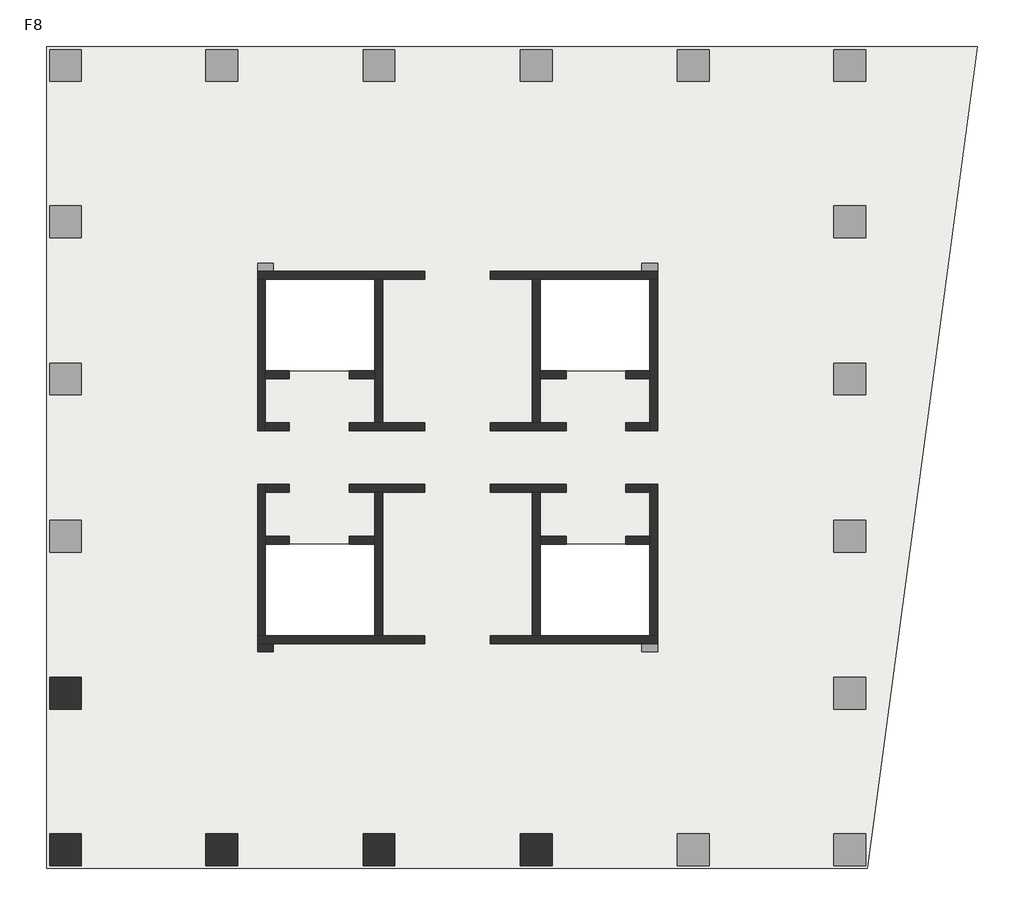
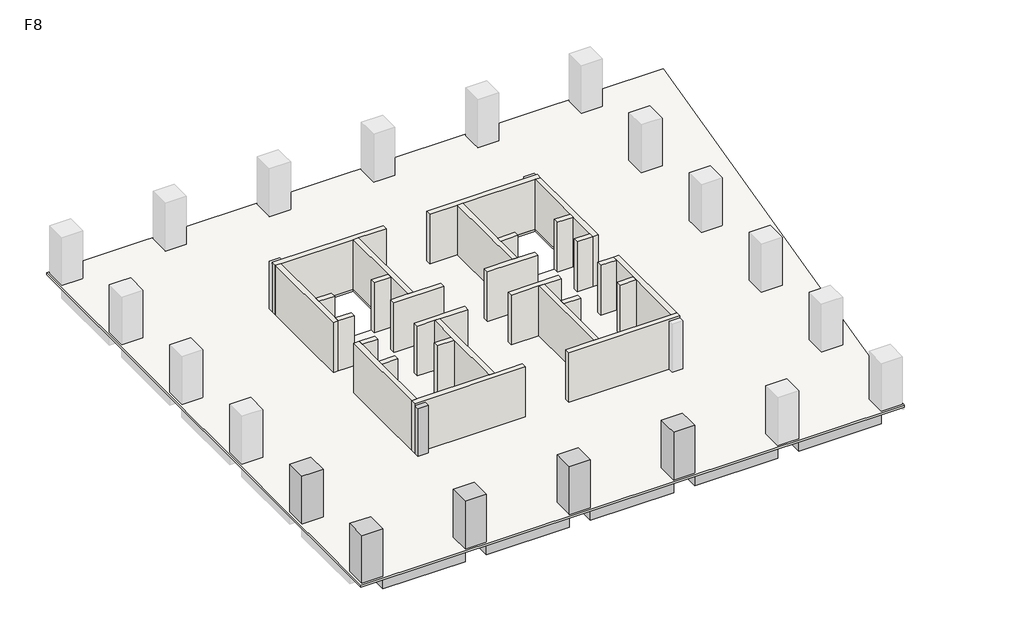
# One storey, part 1 of 2: 28 walls, 6 columns, 5 beams, 1 slab.
"""IFC4 building model written with IfcOpenShell, lengths in millimetres."""

from ifc_helpers import new_model, si_unit, frame, origin, place, context, project, spatial, polyline, outline, extrude, faceted_brep, element, save

model = new_model("IFC4")

# Units and contexts
model_context = context("Model", 3, world=origin())
ifc_project = project(units=[si_unit("LENGTHUNIT", "METRE", prefix="MILLI")], contexts=[model_context])

# Site, building, storey
site = spatial("IfcSite", under=ifc_project)
building = spatial("IfcBuilding", under=site)
storey = spatial("IfcBuildingStorey", under=building, Name="F8", Elevation=32000.0)

# Beams
placement = place(None, origin())
element("IfcBeam", 1, ObjectType="混凝土 - 矩形梁 : KL(5)-800x1000", at=placement, inside=storey, context=model_context, shape_type="SweptSolid", body=[
    extrude(outline(polyline([(-12472.6742169, -13948.9501342), (-12472.6742169, -13148.9501342), (-6222.6742169, -13148.9501342), (-6222.6742169, -13948.9501342), (-12472.6742169, -13948.9501342)])), frame((0.0, 0.0, 31000.0), z_axis=(0.0, 0.0, 1.0), x_axis=(1.0, 0.0, 0.0)), (0.0, 0.0, 1.0), 840.0),
    extrude(outline(polyline([(25327.3257831, -13148.9501342), (25327.3257831, -13948.9501342), (19077.3257831, -13948.9501342), (19077.3257831, -13148.9501342), (25327.3257831, -13148.9501342)])), frame((0.0, 0.0, 31000.0), z_axis=(0.0, 0.0, 1.0), x_axis=(1.0, 0.0, 0.0)), (0.0, 0.0, 1.0), 840.0),
    extrude(outline(polyline([(-4622.6742169, -13948.9501342), (-4622.6742169, -13148.9501342), (1677.3257831, -13148.9501342), (1677.3257831, -13948.9501342), (-4622.6742169, -13948.9501342)])), frame((0.0, 0.0, 31000.0), z_axis=(0.0, 0.0, 1.0), x_axis=(1.0, 0.0, 0.0)), (0.0, 0.0, 1.0), 840.0),
    extrude(outline(polyline([(3277.3257831, -13948.9501342), (3277.3257831, -13148.9501342), (9577.3257831, -13148.9501342), (9577.3257831, -13948.9501342), (3277.3257831, -13948.9501342)])), frame((0.0, 0.0, 31000.0), z_axis=(0.0, 0.0, 1.0), x_axis=(1.0, 0.0, 0.0)), (0.0, 0.0, 1.0), 840.0),
    extrude(outline(polyline([(11177.3257831, -13948.9501342), (11177.3257831, -13148.9501342), (17477.3257831, -13148.9501342), (17477.3257831, -13948.9501342), (11177.3257831, -13948.9501342)])), frame((0.0, 0.0, 31000.0), z_axis=(0.0, 0.0, 1.0), x_axis=(1.0, 0.0, 0.0)), (0.0, 0.0, 1.0), 840.0),
])
element("IfcBeam", 2, ObjectType="混凝土 - 矩形梁 : L1-800x500", at=placement, inside=storey, context=model_context, shape_type="Brep", body=[
    faceted_brep([(-12472.6742169, -5512.1353397, 31500.0), (-3746.9473979, -3341.556529, 31500.0), (-3173.6696907, -3198.9501342, 31500.0), (-3173.6696907, -3198.9501342, 31840.0), (-3746.9473979, -3341.556529, 31840.0), (-12472.6742169, -5512.1353397, 31840.0), (-3622.6742169, -3198.9501342, 31500.0), (-12472.6742169, -4687.7549784, 31500.0), (-3622.6742169, -2486.2624411, 31500.0), (-3622.6742169, -2798.9501342, 31500.0), (-12472.6742169, -4687.7549784, 31840.0), (-3622.6742169, -2486.2624411, 31840.0), (-3622.6742169, -3198.9501342, 31840.0)], [[[0, 1, 2, 3, 4, 5]], [[6, 2, 1, 0, 7, 8, 9]], [[8, 7, 10, 11]], [[2, 6, 12, 3]], [[9, 8, 11, 12, 6]], [[7, 0, 5, 10]], [[5, 4, 3, 12, 11, 10]]]),
])
element("IfcBeam", 3, ObjectType="混凝土 - 矩形梁 : L1-800x500", at=placement, inside=storey, context=model_context, shape_type="SweptSolid", body=[
    extrude(outline(polyline([(-3746.9473979, -3341.556529), (-3173.6696907, -3198.9501342), (-2898.7618154, -3198.9501342), (-4843.6893517, -12348.9501342), (-5661.5624638, -12348.9501342), (-3746.9473979, -3341.556529)])), frame((0.0, 0.0, 31500.0), z_axis=(0.0, 0.0, 1.0), x_axis=(1.0, 0.0, 0.0)), (0.0, 0.0, 1.0), 340.0),
])
element("IfcBeam", 4, ObjectType="混凝土 - 矩形梁 : L1-800x500", at=placement, inside=storey, context=model_context, shape_type="SweptSolid", body=[
    extrude(outline(polyline([(2877.3257831, -12348.9501342), (2077.3257831, -12348.9501342), (2077.3257831, -2798.9501342), (2877.3257831, -2798.9501342), (2877.3257831, -12348.9501342)])), frame((0.0, 0.0, 31500.0), z_axis=(0.0, 0.0, 1.0), x_axis=(1.0, 0.0, 0.0)), (0.0, 0.0, 1.0), 340.0),
])
element("IfcBeam", 5, ObjectType="混凝土 - 矩形梁 : L1-800x500", at=placement, inside=storey, context=model_context, shape_type="SweptSolid", body=[
    extrude(outline(polyline([(10777.3257831, -12348.9501342), (9977.3257831, -12348.9501342), (9977.3257831, -2798.9501342), (10777.3257831, -2798.9501342), (10777.3257831, -12348.9501342)])), frame((0.0, 0.0, 31500.0), z_axis=(0.0, 0.0, 1.0), x_axis=(1.0, 0.0, 0.0)), (0.0, 0.0, 1.0), 340.0),
])

# Columns
element("IfcColumn", 6, ObjectType="混凝土 - 矩形 - 柱 : Z1-1600x1600", at=placement, inside=storey, context=model_context, shape_type="Brep", body=[
    faceted_brep([(-12472.6742169, -4498.9501342, 32000.0), (-12472.6742169, -6098.9501342, 32000.0), (-14072.6742169, -6098.9501342, 32000.0), (-14072.6742169, -4498.9501342, 32000.0), (-12472.6742169, -4498.9501342, 35840.0), (-12472.6742169, -6098.9501342, 35840.0), (-13272.6742169, -6098.9501342, 35840.0), (-14072.6742169, -6098.9501342, 35840.0), (-14072.6742169, -6098.9501342, 35000.0), (-14072.6742169, -4498.9501342, 35840.0), (-14072.6742169, -4498.9501342, 35000.0), (-13272.6742169, -4498.9501342, 35840.0)], [[[0, 1, 2, 3]], [[1, 0, 4, 5]], [[2, 1, 5, 6, 7, 8]], [[3, 2, 8, 7, 9, 10]], [[0, 3, 10, 9, 11, 4]], [[5, 4, 11, 9, 7, 6]]]),
])
element("IfcColumn", 7, ObjectType="混凝土 - 矩形 - 柱 : Z1-1600x1600", at=placement, inside=storey, context=model_context, shape_type="SweptSolid", body=[
    extrude(outline(polyline([(-12472.6742169, -12348.9501342), (-12472.6742169, -13948.9501342), (-14072.6742169, -13948.9501342), (-14072.6742169, -12348.9501342), (-12472.6742169, -12348.9501342)])), frame((0.0, 0.0, 32000.0), z_axis=(0.0, 0.0, 1.0), x_axis=(1.0, 0.0, 0.0)), (0.0, 0.0, 1.0), 3840.0),
])
element("IfcColumn", 8, ObjectType="混凝土 - 矩形 - 柱 : Z1-1600x1600", at=placement, inside=storey, context=model_context, shape_type="Brep", body=[
    faceted_brep([(-4622.6742169, -12348.9501342, 32000.0), (-4622.6742169, -13948.9501342, 32000.0), (-6222.6742169, -13948.9501342, 32000.0), (-6222.6742169, -12348.9501342, 32000.0), (-4622.6742169, -12348.9501342, 35840.0), (-4622.6742169, -13148.9501342, 35840.0), (-4622.6742169, -13948.9501342, 35840.0), (-4622.6742169, -13948.9501342, 35000.0), (-6222.6742169, -13948.9501342, 35840.0), (-6222.6742169, -13948.9501342, 35000.0), (-6222.6742169, -13148.9501342, 35840.0), (-6222.6742169, -12348.9501342, 35840.0)], [[[0, 1, 2, 3]], [[1, 0, 4, 5, 6, 7]], [[2, 1, 7, 6, 8, 9]], [[3, 2, 9, 8, 10, 11]], [[0, 3, 11, 4]], [[6, 5, 4, 11, 10, 8]]]),
])
element("IfcColumn", 9, ObjectType="混凝土 - 矩形 - 柱 : Z1-1600x1600", at=placement, inside=storey, context=model_context, shape_type="Brep", body=[
    faceted_brep([(3277.3257831, -12348.9501342, 32000.0), (3277.3257831, -13948.9501342, 32000.0), (1677.3257831, -13948.9501342, 32000.0), (1677.3257831, -12348.9501342, 32000.0), (3277.3257831, -12348.9501342, 35840.0), (3277.3257831, -13148.9501342, 35840.0), (3277.3257831, -13948.9501342, 35840.0), (3277.3257831, -13948.9501342, 35000.0), (1677.3257831, -13948.9501342, 35840.0), (1677.3257831, -13948.9501342, 35000.0), (1677.3257831, -13148.9501342, 35840.0), (1677.3257831, -12348.9501342, 35840.0)], [[[0, 1, 2, 3]], [[1, 0, 4, 5, 6, 7]], [[2, 1, 7, 6, 8, 9]], [[3, 2, 9, 8, 10, 11]], [[0, 3, 11, 4]], [[6, 5, 4, 11, 10, 8]]]),
])
element("IfcColumn", 10, ObjectType="混凝土 - 矩形 - 柱 : Z1-1600x1600", at=placement, inside=storey, context=model_context, shape_type="Brep", body=[
    faceted_brep([(11177.3257831, -12348.9501342, 32000.0), (11177.3257831, -13948.9501342, 32000.0), (9577.3257831, -13948.9501342, 32000.0), (9577.3257831, -12348.9501342, 32000.0), (11177.3257831, -12348.9501342, 35840.0), (11177.3257831, -13148.9501342, 35840.0), (11177.3257831, -13948.9501342, 35840.0), (11177.3257831, -13948.9501342, 35000.0), (9577.3257831, -13948.9501342, 35840.0), (9577.3257831, -13948.9501342, 35000.0), (9577.3257831, -13148.9501342, 35840.0), (9577.3257831, -12348.9501342, 35840.0)], [[[0, 1, 2, 3]], [[1, 0, 4, 5, 6, 7]], [[2, 1, 7, 6, 8, 9]], [[3, 2, 9, 8, 10, 11]], [[0, 3, 11, 4]], [[6, 5, 4, 11, 10, 8]]]),
])
element("IfcColumn", 11, ObjectType="混凝土 - 矩形 - 柱 : Z2-800x800", at=placement, inside=storey, context=model_context, shape_type="SweptSolid", body=[
    extrude(outline(polyline([(-2822.6742169, -3198.9501342), (-3622.6742169, -3198.9501342), (-3622.6742169, -2798.9501342), (-2822.6742169, -2798.9501342), (-2822.6742169, -3198.9501342)])), frame((0.0, 0.0, 32000.0), z_axis=(0.0, 0.0, 1.0), x_axis=(1.0, 0.0, 0.0)), (0.0, 0.0, 1.0), 3840.0),
])

# Slab
element("IfcSlab", 12, ObjectType="LB-160", at=placement, inside=storey, context=model_context, shape_type="Brep", body=[
    faceted_brep([(32549.4477343, 27201.0498658, 31840.0), (32422.0087099, 26251.0498658, 31840.0), (27029.3257831, -13948.9501342, 31840.0), (27011.0393465, -14085.2672073, 31840.0), (-14222.6742169, -14085.2672073, 31840.0), (-14222.6742169, 27201.0498658, 31840.0), (2277.3257831, 15501.0498658, 31840.0), (-3222.6742169, 15501.0498658, 31840.0), (-3222.6742169, 10901.0498658, 31840.0), (2277.3257831, 10901.0498658, 31840.0), (2277.3257831, 2201.0498658, 31840.0), (-3222.6742169, 2201.0498658, 31840.0), (-3222.6742169, -2398.9501342, 31840.0), (2277.3257831, -2398.9501342, 31840.0), (16077.3257831, 2201.0498658, 31840.0), (10577.3257831, 2201.0498658, 31840.0), (10577.3257831, -2398.9501342, 31840.0), (16077.3257831, -2398.9501342, 31840.0), (16077.3257831, 15501.0498658, 31840.0), (10577.3257831, 15501.0498658, 31840.0), (10577.3257831, 10901.0498658, 31840.0), (16077.3257831, 10901.0498658, 31840.0), (32549.4477343, 27201.0498658, 32000.0), (-14222.6742169, 27201.0498658, 32000.0), (-14222.6742169, -14085.2672073, 32000.0), (27011.0393465, -14085.2672073, 32000.0), (2277.3257831, 15501.0498658, 32000.0), (2277.3257831, 10901.0498658, 32000.0), (-3222.6742169, 10901.0498658, 32000.0), (-3222.6742169, 15501.0498658, 32000.0), (2277.3257831, 2201.0498658, 32000.0), (2277.3257831, -2398.9501342, 32000.0), (-3222.6742169, -2398.9501342, 32000.0), (-3222.6742169, 2201.0498658, 32000.0), (16077.3257831, 2201.0498658, 32000.0), (16077.3257831, -2398.9501342, 32000.0), (10577.3257831, -2398.9501342, 32000.0), (10577.3257831, 2201.0498658, 32000.0), (16077.3257831, 15501.0498658, 32000.0), (16077.3257831, 10901.0498658, 32000.0), (10577.3257831, 10901.0498658, 32000.0), (10577.3257831, 15501.0498658, 32000.0)], [[[0, 1, 2, 3, 4, 5], [6, 7, 8, 9], [10, 11, 12, 13], [14, 15, 16, 17], [18, 19, 20, 21]], [[22, 23, 24, 25], [26, 27, 28, 29], [30, 31, 32, 33], [34, 35, 36, 37], [38, 39, 40, 41]], [[3, 2, 1, 0, 22, 25]], [[4, 3, 25, 24]], [[5, 4, 24, 23]], [[0, 5, 23, 22]], [[7, 6, 26, 29]], [[8, 7, 29, 28]], [[9, 8, 28, 27]], [[6, 9, 27, 26]], [[11, 10, 30, 33]], [[12, 11, 33, 32]], [[13, 12, 32, 31]], [[10, 13, 31, 30]], [[15, 14, 34, 37]], [[16, 15, 37, 36]], [[17, 16, 36, 35]], [[14, 17, 35, 34]], [[19, 18, 38, 41]], [[20, 19, 41, 40]], [[21, 20, 40, 39]], [[18, 21, 39, 38]]]),
])

# Walls
element("IfcWall", 13, ObjectType="剪力墙-400", at=placement, inside=storey, context=model_context, shape_type="Brep", body=[
    faceted_brep([(-3622.6742169, 15501.0498658, 32000.0), (-3222.6742169, 15501.0498658, 32000.0), (2277.3257831, 15501.0498658, 32000.0), (2677.3257831, 15501.0498658, 32000.0), (4777.3257831, 15501.0498658, 32000.0), (4777.3257831, 15501.0498658, 36000.0), (2677.3257831, 15501.0498658, 36000.0), (2277.3257831, 15501.0498658, 36000.0), (-3222.6742169, 15501.0498658, 36000.0), (-3622.6742169, 15501.0498658, 36000.0), (-3622.6742169, 15901.0498658, 32000.0), (-3622.6742169, 15901.0498658, 35840.0), (-3622.6742169, 15901.0498658, 36000.0), (4777.3257831, 15901.0498658, 36000.0), (4777.3257831, 15901.0498658, 32000.0), (-2822.6742169, 15901.0498658, 32000.0)], [[[0, 1, 2, 3, 4, 5, 6, 7, 8, 9]], [[10, 11, 12, 13, 14, 15]], [[4, 3, 2, 1, 0, 10, 15, 14]], [[5, 4, 14, 13]], [[9, 8, 7, 6, 5, 13, 12]], [[0, 9, 12, 11, 10]]]),
])
element("IfcWall", 14, ObjectType="剪力墙-400", at=placement, inside=storey, context=model_context, shape_type="Brep", body=[
    faceted_brep([(2277.3257831, 15501.0498658, 32000.0), (2277.3257831, 10901.0498658, 32000.0), (2277.3257831, 10501.0498658, 32000.0), (2277.3257831, 8301.0498658, 32000.0), (2277.3257831, 8301.0498658, 36000.0), (2277.3257831, 10501.0498658, 36000.0), (2277.3257831, 10901.0498658, 36000.0), (2277.3257831, 15501.0498658, 36000.0), (2677.3257831, 15501.0498658, 32000.0), (2677.3257831, 15501.0498658, 36000.0), (2677.3257831, 8301.0498658, 36000.0), (2677.3257831, 8301.0498658, 32000.0)], [[[0, 1, 2, 3, 4, 5, 6, 7]], [[8, 9, 10, 11]], [[3, 2, 1, 0, 8, 11]], [[7, 6, 5, 4, 10, 9]], [[0, 7, 9, 8]], [[4, 3, 11, 10]]]),
])
element("IfcWall", 15, ObjectType="剪力墙-400", at=placement, inside=storey, context=model_context, shape_type="Brep", body=[
    faceted_brep([(-3622.6742169, 15501.0498658, 32000.0), (-3622.6742169, 7901.0498658, 32000.0), (-3622.6742169, 7901.0498658, 36000.0), (-3622.6742169, 15501.0498658, 36000.0), (-3222.6742169, 15501.0498658, 32000.0), (-3222.6742169, 15501.0498658, 36000.0), (-3222.6742169, 10901.0498658, 36000.0), (-3222.6742169, 10501.0498658, 36000.0), (-3222.6742169, 8301.0498658, 36000.0), (-3222.6742169, 7901.0498658, 36000.0), (-3222.6742169, 7901.0498658, 32000.0), (-3222.6742169, 8301.0498658, 32000.0), (-3222.6742169, 10501.0498658, 32000.0), (-3222.6742169, 10901.0498658, 32000.0)], [[[0, 1, 2, 3]], [[4, 5, 6, 7, 8, 9, 10, 11, 12, 13]], [[1, 0, 4, 13, 12, 11, 10]], [[3, 2, 9, 8, 7, 6, 5]], [[0, 3, 5, 4]], [[2, 1, 10, 9]]]),
])
element("IfcWall", 16, ObjectType="剪力墙-400", at=placement, inside=storey, context=model_context, shape_type="SweptSolid", body=[
    extrude(outline(polyline([(-2022.6742169, 7901.0498658), (-3222.6742169, 7901.0498658), (-3222.6742169, 8301.0498658), (-2022.6742169, 8301.0498658), (-2022.6742169, 7901.0498658)])), frame((0.0, 0.0, 32000.0), z_axis=(0.0, 0.0, 1.0), x_axis=(1.0, 0.0, 0.0)), (0.0, 0.0, 1.0), 4000.0),
])
element("IfcWall", 17, ObjectType="剪力墙-400", at=placement, inside=storey, context=model_context, shape_type="Brep", body=[
    faceted_brep([(977.3257831, 7901.0498658, 32000.0), (4777.3257831, 7901.0498658, 32000.0), (4777.3257831, 7901.0498658, 36000.0), (977.3257831, 7901.0498658, 36000.0), (977.3257831, 8301.0498658, 32000.0), (977.3257831, 8301.0498658, 36000.0), (2277.3257831, 8301.0498658, 36000.0), (2677.3257831, 8301.0498658, 36000.0), (4777.3257831, 8301.0498658, 36000.0), (4777.3257831, 8301.0498658, 32000.0), (2677.3257831, 8301.0498658, 32000.0), (2277.3257831, 8301.0498658, 32000.0)], [[[0, 1, 2, 3]], [[4, 5, 6, 7, 8, 9, 10, 11]], [[1, 0, 4, 11, 10, 9]], [[2, 1, 9, 8]], [[3, 2, 8, 7, 6, 5]], [[0, 3, 5, 4]]]),
])
element("IfcWall", 18, ObjectType="剪力墙-400", at=placement, inside=storey, context=model_context, shape_type="SweptSolid", body=[
    extrude(outline(polyline([(-2022.6742169, 10501.0498658), (-3222.6742169, 10501.0498658), (-3222.6742169, 10901.0498658), (-2022.6742169, 10901.0498658), (-2022.6742169, 10501.0498658)])), frame((0.0, 0.0, 32000.0), z_axis=(0.0, 0.0, 1.0), x_axis=(1.0, 0.0, 0.0)), (0.0, 0.0, 1.0), 4000.0),
])
element("IfcWall", 19, ObjectType="剪力墙-400", at=placement, inside=storey, context=model_context, shape_type="SweptSolid", body=[
    extrude(outline(polyline([(2277.3257831, 10501.0498658), (977.3257831, 10501.0498658), (977.3257831, 10901.0498658), (2277.3257831, 10901.0498658), (2277.3257831, 10501.0498658)])), frame((0.0, 0.0, 32000.0), z_axis=(0.0, 0.0, 1.0), x_axis=(1.0, 0.0, 0.0)), (0.0, 0.0, 1.0), 4000.0),
])
element("IfcWall", 20, ObjectType="剪力墙-400", at=placement, inside=storey, context=model_context, shape_type="Brep", body=[
    faceted_brep([(16477.3257831, 15901.0498658, 32000.0), (15677.3257831, 15901.0498658, 32000.0), (8077.3257831, 15901.0498658, 32000.0), (8077.3257831, 15901.0498658, 36000.0), (16477.3257831, 15901.0498658, 36000.0), (16477.3257831, 15901.0498658, 35840.0), (16477.3257831, 15501.0498658, 32000.0), (16477.3257831, 15501.0498658, 36000.0), (16077.3257831, 15501.0498658, 36000.0), (10577.3257831, 15501.0498658, 36000.0), (10177.3257831, 15501.0498658, 36000.0), (8077.3257831, 15501.0498658, 36000.0), (8077.3257831, 15501.0498658, 32000.0), (10177.3257831, 15501.0498658, 32000.0), (10577.3257831, 15501.0498658, 32000.0), (16077.3257831, 15501.0498658, 32000.0)], [[[0, 1, 2, 3, 4, 5]], [[6, 7, 8, 9, 10, 11, 12, 13, 14, 15]], [[2, 1, 0, 6, 15, 14, 13, 12]], [[3, 2, 12, 11]], [[4, 3, 11, 10, 9, 8, 7]], [[0, 5, 4, 7, 6]]]),
])
element("IfcWall", 21, ObjectType="剪力墙-400", at=placement, inside=storey, context=model_context, shape_type="Brep", body=[
    faceted_brep([(10177.3257831, 15501.0498658, 32000.0), (10177.3257831, 8301.0498658, 32000.0), (10177.3257831, 8301.0498658, 36000.0), (10177.3257831, 15501.0498658, 36000.0), (10577.3257831, 15501.0498658, 32000.0), (10577.3257831, 15501.0498658, 36000.0), (10577.3257831, 10901.0498658, 36000.0), (10577.3257831, 10501.0498658, 36000.0), (10577.3257831, 8301.0498658, 36000.0), (10577.3257831, 8301.0498658, 32000.0), (10577.3257831, 10501.0498658, 32000.0), (10577.3257831, 10901.0498658, 32000.0)], [[[0, 1, 2, 3]], [[4, 5, 6, 7, 8, 9, 10, 11]], [[1, 0, 4, 11, 10, 9]], [[3, 2, 8, 7, 6, 5]], [[0, 3, 5, 4]], [[2, 1, 9, 8]]]),
])
element("IfcWall", 22, ObjectType="剪力墙-400", at=placement, inside=storey, context=model_context, shape_type="Brep", body=[
    faceted_brep([(16077.3257831, 15501.0498658, 32000.0), (16077.3257831, 10901.0498658, 32000.0), (16077.3257831, 10501.0498658, 32000.0), (16077.3257831, 8301.0498658, 32000.0), (16077.3257831, 7901.0498658, 32000.0), (16077.3257831, 7901.0498658, 36000.0), (16077.3257831, 8301.0498658, 36000.0), (16077.3257831, 10501.0498658, 36000.0), (16077.3257831, 10901.0498658, 36000.0), (16077.3257831, 15501.0498658, 36000.0), (16477.3257831, 15501.0498658, 32000.0), (16477.3257831, 15501.0498658, 36000.0), (16477.3257831, 7901.0498658, 36000.0), (16477.3257831, 7901.0498658, 32000.0)], [[[0, 1, 2, 3, 4, 5, 6, 7, 8, 9]], [[10, 11, 12, 13]], [[4, 3, 2, 1, 0, 10, 13]], [[9, 8, 7, 6, 5, 12, 11]], [[0, 9, 11, 10]], [[5, 4, 13, 12]]]),
])
element("IfcWall", 23, ObjectType="剪力墙-400", at=placement, inside=storey, context=model_context, shape_type="SweptSolid", body=[
    extrude(outline(polyline([(14877.3257831, 8301.0498658), (16077.3257831, 8301.0498658), (16077.3257831, 7901.0498658), (14877.3257831, 7901.0498658), (14877.3257831, 8301.0498658)])), frame((0.0, 0.0, 32000.0), z_axis=(0.0, 0.0, 1.0), x_axis=(1.0, 0.0, 0.0)), (0.0, 0.0, 1.0), 4000.0),
])
element("IfcWall", 24, ObjectType="剪力墙-400", at=placement, inside=storey, context=model_context, shape_type="Brep", body=[
    faceted_brep([(11877.3257831, 8301.0498658, 32000.0), (10577.3257831, 8301.0498658, 32000.0), (10177.3257831, 8301.0498658, 32000.0), (8077.3257831, 8301.0498658, 32000.0), (8077.3257831, 8301.0498658, 36000.0), (10177.3257831, 8301.0498658, 36000.0), (10577.3257831, 8301.0498658, 36000.0), (11877.3257831, 8301.0498658, 36000.0), (11877.3257831, 7901.0498658, 32000.0), (11877.3257831, 7901.0498658, 36000.0), (8077.3257831, 7901.0498658, 36000.0), (8077.3257831, 7901.0498658, 32000.0)], [[[0, 1, 2, 3, 4, 5, 6, 7]], [[8, 9, 10, 11]], [[3, 2, 1, 0, 8, 11]], [[4, 3, 11, 10]], [[7, 6, 5, 4, 10, 9]], [[0, 7, 9, 8]]]),
])
element("IfcWall", 25, ObjectType="剪力墙-400", at=placement, inside=storey, context=model_context, shape_type="SweptSolid", body=[
    extrude(outline(polyline([(14877.3257831, 10901.0498658), (16077.3257831, 10901.0498658), (16077.3257831, 10501.0498658), (14877.3257831, 10501.0498658), (14877.3257831, 10901.0498658)])), frame((0.0, 0.0, 32000.0), z_axis=(0.0, 0.0, 1.0), x_axis=(1.0, 0.0, 0.0)), (0.0, 0.0, 1.0), 4000.0),
])
element("IfcWall", 26, ObjectType="剪力墙-400", at=placement, inside=storey, context=model_context, shape_type="SweptSolid", body=[
    extrude(outline(polyline([(10577.3257831, 10901.0498658), (11877.3257831, 10901.0498658), (11877.3257831, 10501.0498658), (10577.3257831, 10501.0498658), (10577.3257831, 10901.0498658)])), frame((0.0, 0.0, 32000.0), z_axis=(0.0, 0.0, 1.0), x_axis=(1.0, 0.0, 0.0)), (0.0, 0.0, 1.0), 4000.0),
])
element("IfcWall", 27, ObjectType="剪力墙-400", at=placement, inside=storey, context=model_context, shape_type="Brep", body=[
    faceted_brep([(-3622.6742169, -2798.9501342, 32000.0), (-2822.6742169, -2798.9501342, 32000.0), (4777.3257831, -2798.9501342, 32000.0), (4777.3257831, -2798.9501342, 36000.0), (-3622.6742169, -2798.9501342, 36000.0), (-3622.6742169, -2798.9501342, 35840.0), (-3622.6742169, -2398.9501342, 32000.0), (-3622.6742169, -2398.9501342, 36000.0), (-3222.6742169, -2398.9501342, 36000.0), (2277.3257831, -2398.9501342, 36000.0), (2677.3257831, -2398.9501342, 36000.0), (4777.3257831, -2398.9501342, 36000.0), (4777.3257831, -2398.9501342, 32000.0), (2677.3257831, -2398.9501342, 32000.0), (2277.3257831, -2398.9501342, 32000.0), (-3222.6742169, -2398.9501342, 32000.0)], [[[0, 1, 2, 3, 4, 5]], [[6, 7, 8, 9, 10, 11, 12, 13, 14, 15]], [[2, 1, 0, 6, 15, 14, 13, 12]], [[3, 2, 12, 11]], [[4, 3, 11, 10, 9, 8, 7]], [[0, 5, 4, 7, 6]]]),
])
element("IfcWall", 28, ObjectType="剪力墙-400", at=placement, inside=storey, context=model_context, shape_type="Brep", body=[
    faceted_brep([(2677.3257831, -2398.9501342, 32000.0), (2677.3257831, 4801.0498658, 32000.0), (2677.3257831, 4801.0498658, 36000.0), (2677.3257831, -2398.9501342, 36000.0), (2277.3257831, -2398.9501342, 32000.0), (2277.3257831, -2398.9501342, 36000.0), (2277.3257831, 2201.0498658, 36000.0), (2277.3257831, 2601.0498658, 36000.0), (2277.3257831, 4801.0498658, 36000.0), (2277.3257831, 4801.0498658, 32000.0), (2277.3257831, 2601.0498658, 32000.0), (2277.3257831, 2201.0498658, 32000.0)], [[[0, 1, 2, 3]], [[4, 5, 6, 7, 8, 9, 10, 11]], [[1, 0, 4, 11, 10, 9]], [[3, 2, 8, 7, 6, 5]], [[0, 3, 5, 4]], [[2, 1, 9, 8]]]),
])
element("IfcWall", 29, ObjectType="剪力墙-400", at=placement, inside=storey, context=model_context, shape_type="Brep", body=[
    faceted_brep([(-3222.6742169, -2398.9501342, 32000.0), (-3222.6742169, 2201.0498658, 32000.0), (-3222.6742169, 2601.0498658, 32000.0), (-3222.6742169, 4801.0498658, 32000.0), (-3222.6742169, 5201.0498658, 32000.0), (-3222.6742169, 5201.0498658, 36000.0), (-3222.6742169, 4801.0498658, 36000.0), (-3222.6742169, 2601.0498658, 36000.0), (-3222.6742169, 2201.0498658, 36000.0), (-3222.6742169, -2398.9501342, 36000.0), (-3622.6742169, -2398.9501342, 32000.0), (-3622.6742169, -2398.9501342, 36000.0), (-3622.6742169, 5201.0498658, 36000.0), (-3622.6742169, 5201.0498658, 32000.0)], [[[0, 1, 2, 3, 4, 5, 6, 7, 8, 9]], [[10, 11, 12, 13]], [[4, 3, 2, 1, 0, 10, 13]], [[9, 8, 7, 6, 5, 12, 11]], [[0, 9, 11, 10]], [[5, 4, 13, 12]]]),
])
element("IfcWall", 30, ObjectType="剪力墙-400", at=placement, inside=storey, context=model_context, shape_type="SweptSolid", body=[
    extrude(outline(polyline([(-2022.6742169, 4801.0498658), (-3222.6742169, 4801.0498658), (-3222.6742169, 5201.0498658), (-2022.6742169, 5201.0498658), (-2022.6742169, 4801.0498658)])), frame((0.0, 0.0, 32000.0), z_axis=(0.0, 0.0, 1.0), x_axis=(1.0, 0.0, 0.0)), (0.0, 0.0, 1.0), 4000.0),
])
element("IfcWall", 31, ObjectType="剪力墙-400", at=placement, inside=storey, context=model_context, shape_type="Brep", body=[
    faceted_brep([(977.3257831, 4801.0498658, 32000.0), (2277.3257831, 4801.0498658, 32000.0), (2677.3257831, 4801.0498658, 32000.0), (4777.3257831, 4801.0498658, 32000.0), (4777.3257831, 4801.0498658, 36000.0), (2677.3257831, 4801.0498658, 36000.0), (2277.3257831, 4801.0498658, 36000.0), (977.3257831, 4801.0498658, 36000.0), (977.3257831, 5201.0498658, 32000.0), (977.3257831, 5201.0498658, 36000.0), (4777.3257831, 5201.0498658, 36000.0), (4777.3257831, 5201.0498658, 32000.0)], [[[0, 1, 2, 3, 4, 5, 6, 7]], [[8, 9, 10, 11]], [[3, 2, 1, 0, 8, 11]], [[4, 3, 11, 10]], [[7, 6, 5, 4, 10, 9]], [[0, 7, 9, 8]]]),
])
element("IfcWall", 32, ObjectType="剪力墙-400", at=placement, inside=storey, context=model_context, shape_type="SweptSolid", body=[
    extrude(outline(polyline([(-2022.6742169, 2201.0498658), (-3222.6742169, 2201.0498658), (-3222.6742169, 2601.0498658), (-2022.6742169, 2601.0498658), (-2022.6742169, 2201.0498658)])), frame((0.0, 0.0, 32000.0), z_axis=(0.0, 0.0, 1.0), x_axis=(1.0, 0.0, 0.0)), (0.0, 0.0, 1.0), 4000.0),
])
element("IfcWall", 33, ObjectType="剪力墙-400", at=placement, inside=storey, context=model_context, shape_type="SweptSolid", body=[
    extrude(outline(polyline([(2277.3257831, 2201.0498658), (977.3257831, 2201.0498658), (977.3257831, 2601.0498658), (2277.3257831, 2601.0498658), (2277.3257831, 2201.0498658)])), frame((0.0, 0.0, 32000.0), z_axis=(0.0, 0.0, 1.0), x_axis=(1.0, 0.0, 0.0)), (0.0, 0.0, 1.0), 4000.0),
])
element("IfcWall", 34, ObjectType="剪力墙-400", at=placement, inside=storey, context=model_context, shape_type="Brep", body=[
    faceted_brep([(16477.3257831, -2398.9501342, 32000.0), (16077.3257831, -2398.9501342, 32000.0), (10577.3257831, -2398.9501342, 32000.0), (10177.3257831, -2398.9501342, 32000.0), (8077.3257831, -2398.9501342, 32000.0), (8077.3257831, -2398.9501342, 36000.0), (10177.3257831, -2398.9501342, 36000.0), (10577.3257831, -2398.9501342, 36000.0), (16077.3257831, -2398.9501342, 36000.0), (16477.3257831, -2398.9501342, 36000.0), (16477.3257831, -2798.9501342, 32000.0), (16477.3257831, -2798.9501342, 35840.0), (16477.3257831, -2798.9501342, 36000.0), (8077.3257831, -2798.9501342, 36000.0), (8077.3257831, -2798.9501342, 32000.0), (15677.3257831, -2798.9501342, 32000.0)], [[[0, 1, 2, 3, 4, 5, 6, 7, 8, 9]], [[10, 11, 12, 13, 14, 15]], [[4, 3, 2, 1, 0, 10, 15, 14]], [[5, 4, 14, 13]], [[9, 8, 7, 6, 5, 13, 12]], [[0, 9, 12, 11, 10]]]),
])
element("IfcWall", 35, ObjectType="剪力墙-400", at=placement, inside=storey, context=model_context, shape_type="Brep", body=[
    faceted_brep([(10577.3257831, -2398.9501342, 32000.0), (10577.3257831, 2201.0498658, 32000.0), (10577.3257831, 2601.0498658, 32000.0), (10577.3257831, 4801.0498658, 32000.0), (10577.3257831, 4801.0498658, 36000.0), (10577.3257831, 2601.0498658, 36000.0), (10577.3257831, 2201.0498658, 36000.0), (10577.3257831, -2398.9501342, 36000.0), (10177.3257831, -2398.9501342, 32000.0), (10177.3257831, -2398.9501342, 36000.0), (10177.3257831, 4801.0498658, 36000.0), (10177.3257831, 4801.0498658, 32000.0)], [[[0, 1, 2, 3, 4, 5, 6, 7]], [[8, 9, 10, 11]], [[3, 2, 1, 0, 8, 11]], [[7, 6, 5, 4, 10, 9]], [[0, 7, 9, 8]], [[4, 3, 11, 10]]]),
])
element("IfcWall", 36, ObjectType="剪力墙-400", at=placement, inside=storey, context=model_context, shape_type="Brep", body=[
    faceted_brep([(16477.3257831, -2398.9501342, 32000.0), (16477.3257831, 5201.0498658, 32000.0), (16477.3257831, 5201.0498658, 36000.0), (16477.3257831, -2398.9501342, 36000.0), (16077.3257831, -2398.9501342, 32000.0), (16077.3257831, -2398.9501342, 36000.0), (16077.3257831, 2201.0498658, 36000.0), (16077.3257831, 2601.0498658, 36000.0), (16077.3257831, 4801.0498658, 36000.0), (16077.3257831, 5201.0498658, 36000.0), (16077.3257831, 5201.0498658, 32000.0), (16077.3257831, 4801.0498658, 32000.0), (16077.3257831, 2601.0498658, 32000.0), (16077.3257831, 2201.0498658, 32000.0)], [[[0, 1, 2, 3]], [[4, 5, 6, 7, 8, 9, 10, 11, 12, 13]], [[1, 0, 4, 13, 12, 11, 10]], [[3, 2, 9, 8, 7, 6, 5]], [[0, 3, 5, 4]], [[2, 1, 10, 9]]]),
])
element("IfcWall", 37, ObjectType="剪力墙-400", at=placement, inside=storey, context=model_context, shape_type="SweptSolid", body=[
    extrude(outline(polyline([(14877.3257831, 5201.0498658), (16077.3257831, 5201.0498658), (16077.3257831, 4801.0498658), (14877.3257831, 4801.0498658), (14877.3257831, 5201.0498658)])), frame((0.0, 0.0, 32000.0), z_axis=(0.0, 0.0, 1.0), x_axis=(1.0, 0.0, 0.0)), (0.0, 0.0, 1.0), 4000.0),
])
element("IfcWall", 38, ObjectType="剪力墙-400", at=placement, inside=storey, context=model_context, shape_type="Brep", body=[
    faceted_brep([(11877.3257831, 5201.0498658, 32000.0), (8077.3257831, 5201.0498658, 32000.0), (8077.3257831, 5201.0498658, 36000.0), (11877.3257831, 5201.0498658, 36000.0), (11877.3257831, 4801.0498658, 32000.0), (11877.3257831, 4801.0498658, 36000.0), (10577.3257831, 4801.0498658, 36000.0), (10177.3257831, 4801.0498658, 36000.0), (8077.3257831, 4801.0498658, 36000.0), (8077.3257831, 4801.0498658, 32000.0), (10177.3257831, 4801.0498658, 32000.0), (10577.3257831, 4801.0498658, 32000.0)], [[[0, 1, 2, 3]], [[4, 5, 6, 7, 8, 9, 10, 11]], [[1, 0, 4, 11, 10, 9]], [[2, 1, 9, 8]], [[3, 2, 8, 7, 6, 5]], [[0, 3, 5, 4]]]),
])
element("IfcWall", 39, ObjectType="剪力墙-400", at=placement, inside=storey, context=model_context, shape_type="SweptSolid", body=[
    extrude(outline(polyline([(14877.3257831, 2601.0498658), (16077.3257831, 2601.0498658), (16077.3257831, 2201.0498658), (14877.3257831, 2201.0498658), (14877.3257831, 2601.0498658)])), frame((0.0, 0.0, 32000.0), z_axis=(0.0, 0.0, 1.0), x_axis=(1.0, 0.0, 0.0)), (0.0, 0.0, 1.0), 4000.0),
])
element("IfcWall", 40, ObjectType="剪力墙-400", at=placement, inside=storey, context=model_context, shape_type="SweptSolid", body=[
    extrude(outline(polyline([(10577.3257831, 2601.0498658), (11877.3257831, 2601.0498658), (11877.3257831, 2201.0498658), (10577.3257831, 2201.0498658), (10577.3257831, 2601.0498658)])), frame((0.0, 0.0, 32000.0), z_axis=(0.0, 0.0, 1.0), x_axis=(1.0, 0.0, 0.0)), (0.0, 0.0, 1.0), 4000.0),
])

save(model, "model.ifc")
